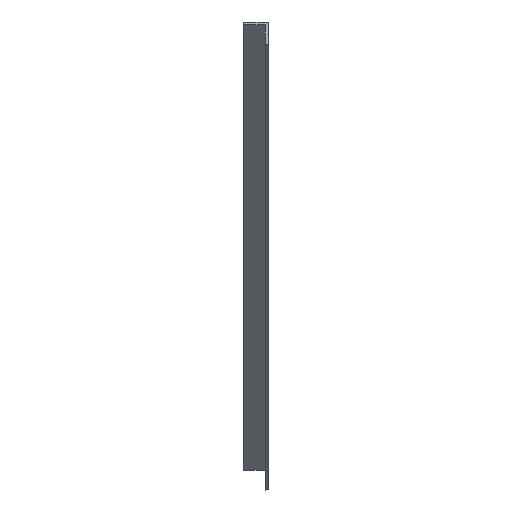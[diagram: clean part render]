
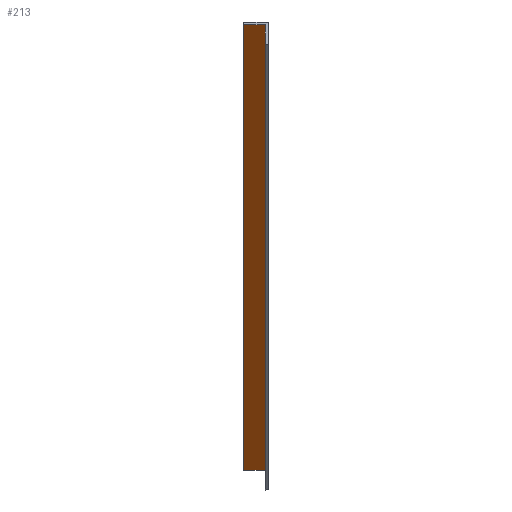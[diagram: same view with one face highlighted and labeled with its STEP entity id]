
A CAD part, left-side view. The second image highlights one B-rep face of the part: STEP entity #213.
In plain terms, the highlighted planar face has unit normal (-0.392, 0, -0.92).
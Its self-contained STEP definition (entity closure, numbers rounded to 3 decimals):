
#72 = PLANE('',#73);
#73 = AXIS2_PLACEMENT_3D('',#74,#75,#76);
#74 = CARTESIAN_POINT('',(-1651.222,2021.515,
    1528.369));
#75 = DIRECTION('',(-0.92,0.,0.392));
#76 = DIRECTION('',(-0.392,0.,-0.92)
  );
#100 = PLANE('',#101);
#101 = AXIS2_PLACEMENT_3D('',#102,#103,#104);
#102 = CARTESIAN_POINT('',(1642.,2074.2,150.));
#103 = DIRECTION('',(-0.,-1.,0.));
#104 = DIRECTION('',(-0.392,0.,-0.92));
#126 = PLANE('',#127);
#127 = AXIS2_PLACEMENT_3D('',#128,#129,#130);
#128 = CARTESIAN_POINT('',(1632.778,2021.515,
    128.369));
#129 = DIRECTION('',(-0.92,0.,0.392)
  );
#130 = DIRECTION('',(-0.392,0.,-0.92
    ));
#143 = VERTEX_POINT('',#144);
#144 = CARTESIAN_POINT('',(-1645.735,2074.2,
    1541.238));
#165 = EDGE_CURVE('',#166,#143,#168,.T.);
#166 = VERTEX_POINT('',#167);
#167 = CARTESIAN_POINT('',(1638.265,2074.2,141.238
    ));
#168 = SURFACE_CURVE('',#169,(#173,#180),.PCURVE_S1.);
#169 = LINE('',#170,#171);
#170 = CARTESIAN_POINT('',(1638.265,2074.2,141.238
    ));
#171 = VECTOR('',#172,1.);
#172 = DIRECTION('',(-0.92,0.,0.392));
#173 = PCURVE('',#100,#174);
#174 = DEFINITIONAL_REPRESENTATION('',(#175),#179);
#175 = LINE('',#176,#177);
#176 = CARTESIAN_POINT('',(9.525,0.));
#177 = VECTOR('',#178,1.);
#178 = DIRECTION('',(0.,-1.));
#179 = ( GEOMETRIC_REPRESENTATION_CONTEXT(2) 
PARAMETRIC_REPRESENTATION_CONTEXT() REPRESENTATION_CONTEXT('2D SPACE',''
  ) );
#180 = PCURVE('',#181,#186);
#181 = PLANE('',#182);
#182 = AXIS2_PLACEMENT_3D('',#183,#184,#185);
#183 = CARTESIAN_POINT('',(1638.265,2074.2,141.238
    ));
#184 = DIRECTION('',(0.392,0.,0.92));
#185 = DIRECTION('',(0.,-1.,0.));
#186 = DEFINITIONAL_REPRESENTATION('',(#187),#191);
#187 = LINE('',#188,#189);
#188 = CARTESIAN_POINT('',(0.,0.));
#189 = VECTOR('',#190,1.);
#190 = DIRECTION('',(0.,-1.));
#191 = ( GEOMETRIC_REPRESENTATION_CONTEXT(2) 
PARAMETRIC_REPRESENTATION_CONTEXT() REPRESENTATION_CONTEXT('2D SPACE',''
  ) );
#213 = ADVANCED_FACE('',(#214),#181,.F.);
#214 = FACE_BOUND('',#215,.F.);
#215 = EDGE_LOOP('',(#216,#217,#240,#268));
#216 = ORIENTED_EDGE('',*,*,#165,.T.);
#217 = ORIENTED_EDGE('',*,*,#218,.T.);
#218 = EDGE_CURVE('',#143,#219,#221,.T.);
#219 = VERTEX_POINT('',#220);
#220 = CARTESIAN_POINT('',(-1645.735,2007.525,
    1541.238));
#221 = SURFACE_CURVE('',#222,(#226,#233),.PCURVE_S1.);
#222 = LINE('',#223,#224);
#223 = CARTESIAN_POINT('',(-1645.735,2074.2,
    1541.238));
#224 = VECTOR('',#225,1.);
#225 = DIRECTION('',(0.,-1.,0.));
#226 = PCURVE('',#181,#227);
#227 = DEFINITIONAL_REPRESENTATION('',(#228),#232);
#228 = LINE('',#229,#230);
#229 = CARTESIAN_POINT('',(0.,-3569.966));
#230 = VECTOR('',#231,1.);
#231 = DIRECTION('',(1.,0.));
#232 = ( GEOMETRIC_REPRESENTATION_CONTEXT(2) 
PARAMETRIC_REPRESENTATION_CONTEXT() REPRESENTATION_CONTEXT('2D SPACE',''
  ) );
#233 = PCURVE('',#72,#234);
#234 = DEFINITIONAL_REPRESENTATION('',(#235),#239);
#235 = LINE('',#236,#237);
#236 = CARTESIAN_POINT('',(-13.99,-52.685));
#237 = VECTOR('',#238,1.);
#238 = DIRECTION('',(0.,1.));
#239 = ( GEOMETRIC_REPRESENTATION_CONTEXT(2) 
PARAMETRIC_REPRESENTATION_CONTEXT() REPRESENTATION_CONTEXT('2D SPACE',''
  ) );
#240 = ORIENTED_EDGE('',*,*,#241,.F.);
#241 = EDGE_CURVE('',#242,#219,#244,.T.);
#242 = VERTEX_POINT('',#243);
#243 = CARTESIAN_POINT('',(1638.265,2007.525,
    141.238));
#244 = SURFACE_CURVE('',#245,(#249,#256),.PCURVE_S1.);
#245 = LINE('',#246,#247);
#246 = CARTESIAN_POINT('',(1638.265,2007.525,
    141.238));
#247 = VECTOR('',#248,1.);
#248 = DIRECTION('',(-0.92,0.,0.392));
#249 = PCURVE('',#181,#250);
#250 = DEFINITIONAL_REPRESENTATION('',(#251),#255);
#251 = LINE('',#252,#253);
#252 = CARTESIAN_POINT('',(66.675,0.));
#253 = VECTOR('',#254,1.);
#254 = DIRECTION('',(0.,-1.));
#255 = ( GEOMETRIC_REPRESENTATION_CONTEXT(2) 
PARAMETRIC_REPRESENTATION_CONTEXT() REPRESENTATION_CONTEXT('2D SPACE',''
  ) );
#256 = PCURVE('',#257,#262);
#257 = PLANE('',#258);
#258 = AXIS2_PLACEMENT_3D('',#259,#260,#261);
#259 = CARTESIAN_POINT('',(1638.265,2007.525,
    141.238));
#260 = DIRECTION('',(-0.,-1.,0.));
#261 = DIRECTION('',(-0.392,0.,-0.92));
#262 = DEFINITIONAL_REPRESENTATION('',(#263),#267);
#263 = LINE('',#264,#265);
#264 = CARTESIAN_POINT('',(0.,0.));
#265 = VECTOR('',#266,1.);
#266 = DIRECTION('',(0.,-1.));
#267 = ( GEOMETRIC_REPRESENTATION_CONTEXT(2) 
PARAMETRIC_REPRESENTATION_CONTEXT() REPRESENTATION_CONTEXT('2D SPACE',''
  ) );
#268 = ORIENTED_EDGE('',*,*,#269,.F.);
#269 = EDGE_CURVE('',#166,#242,#270,.T.);
#270 = SURFACE_CURVE('',#271,(#275,#282),.PCURVE_S1.);
#271 = LINE('',#272,#273);
#272 = CARTESIAN_POINT('',(1638.265,2074.2,141.238
    ));
#273 = VECTOR('',#274,1.);
#274 = DIRECTION('',(0.,-1.,0.));
#275 = PCURVE('',#181,#276);
#276 = DEFINITIONAL_REPRESENTATION('',(#277),#281);
#277 = LINE('',#278,#279);
#278 = CARTESIAN_POINT('',(0.,0.));
#279 = VECTOR('',#280,1.);
#280 = DIRECTION('',(1.,0.));
#281 = ( GEOMETRIC_REPRESENTATION_CONTEXT(2) 
PARAMETRIC_REPRESENTATION_CONTEXT() REPRESENTATION_CONTEXT('2D SPACE',''
  ) );
#282 = PCURVE('',#126,#283);
#283 = DEFINITIONAL_REPRESENTATION('',(#284),#288);
#284 = LINE('',#285,#286);
#285 = CARTESIAN_POINT('',(-13.99,-52.685));
#286 = VECTOR('',#287,1.);
#287 = DIRECTION('',(0.,1.));
#288 = ( GEOMETRIC_REPRESENTATION_CONTEXT(2) 
PARAMETRIC_REPRESENTATION_CONTEXT() REPRESENTATION_CONTEXT('2D SPACE',''
  ) );
